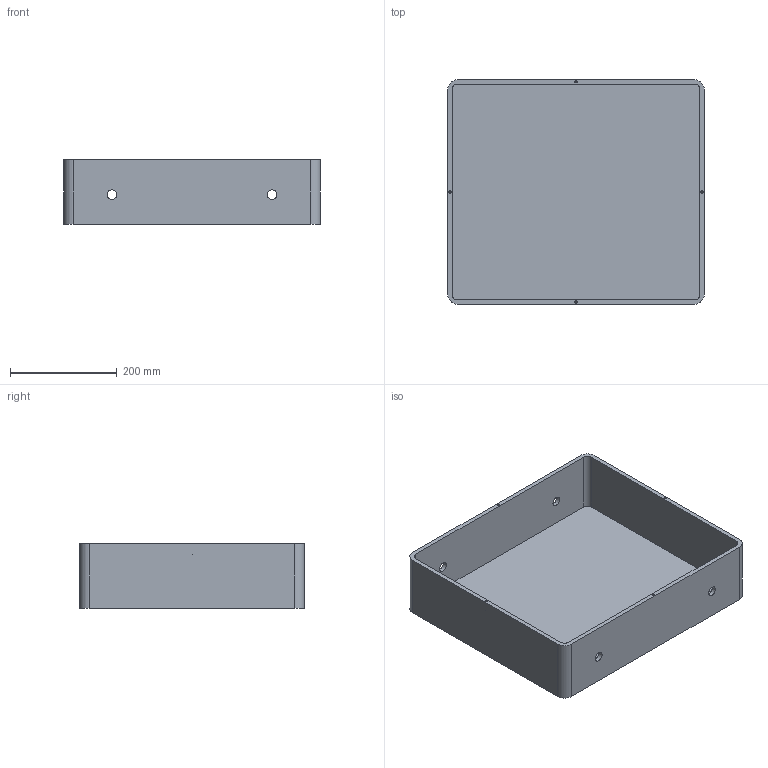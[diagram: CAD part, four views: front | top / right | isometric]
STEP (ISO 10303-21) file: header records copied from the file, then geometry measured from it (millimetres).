
FILE_DESCRIPTION(('Open CASCADE Model'),'2;1');
FILE_NAME('Open CASCADE Shape Model','2026-09-01T17:09:24',('Author'),( 'Open CASCADE'),'Open CASCADE STEP processor 7.9','Open CASCADE 7.9' ,'Unknown');
FILE_SCHEMA(('AUTOMOTIVE_DESIGN { 1 0 10303 214 1 1 1 1 }'));
Length unit declared in the file: millimetre
Products named in the file (1): Open CASCADE STEP translator 7.9 1
Bounding box: 480 x 420 x 120 mm (x, y, z)
Volume: 2789175.6 mm3; surface area: 811711.6 mm2
Topology: 1 solids, 1 shells, 31 faces, 72 edges, 48 vertices
Faces by surface type: cylinder 16, plane 15
Full cylindrical faces by diameter (mm): 4.2 x4, 18 x4
Entity records: 1894 total; most frequent: CARTESIAN_POINT 388, DIRECTION 290, ORIENTED_EDGE 144, LINE 144, VECTOR 144, PCURVE 144, DEFINITIONAL_REPRESENTATION 144, EDGE_CURVE 72
